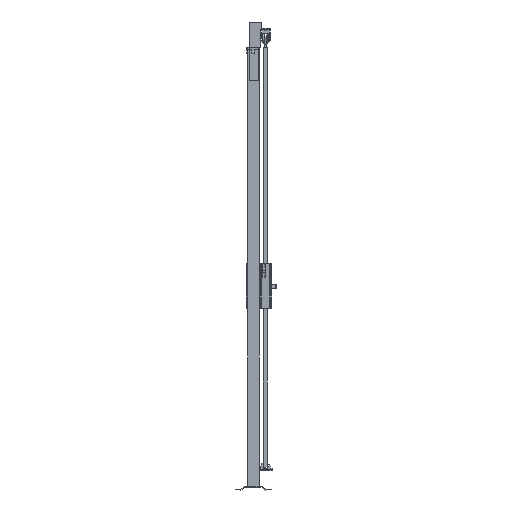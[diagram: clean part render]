
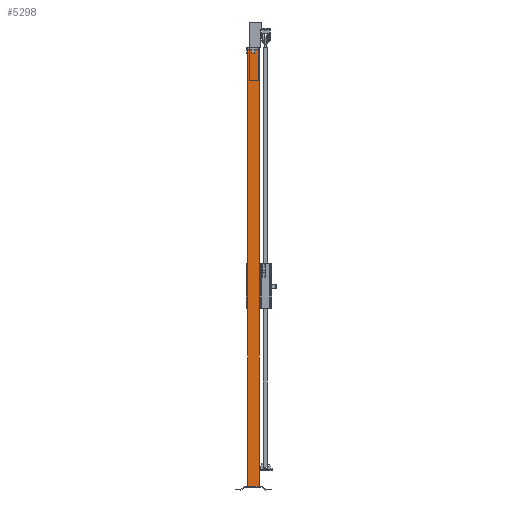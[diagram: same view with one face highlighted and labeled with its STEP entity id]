
A CAD part, left-side view. The second image highlights one B-rep face of the part: STEP entity #5298.
In plain terms, the highlighted planar face has unit normal (-1, 0, 0).
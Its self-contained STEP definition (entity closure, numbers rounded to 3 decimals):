
#497=FACE_OUTER_BOUND('',#878,.T.);
#878=EDGE_LOOP('',(#3342,#3343,#3344,#3345));
#1316=VERTEX_POINT('',#11287);
#1317=VERTEX_POINT('',#11289);
#1320=VERTEX_POINT('',#11296);
#1321=VERTEX_POINT('',#11298);
#2106=EDGE_CURVE('',#1316,#1317,#6216,.T.);
#2110=EDGE_CURVE('',#1320,#1321,#6220,.T.);
#2112=EDGE_CURVE('',#1317,#1320,#6222,.T.);
#2114=EDGE_CURVE('',#1316,#1321,#6224,.T.);
#3342=ORIENTED_EDGE('',*,*,#2114,.T.);
#3343=ORIENTED_EDGE('',*,*,#2110,.F.);
#3344=ORIENTED_EDGE('',*,*,#2112,.F.);
#3345=ORIENTED_EDGE('',*,*,#2106,.F.);
#4956=PLANE('',#8019);
#5298=ADVANCED_FACE('',(#497),#4956,.F.);
#6216=LINE('',#11290,#7207);
#6220=LINE('',#11299,#7211);
#6222=LINE('',#11302,#7213);
#6224=LINE('',#11305,#7215);
#7207=VECTOR('',#8946,1.);
#7211=VECTOR('',#8952,1.);
#7213=VECTOR('',#8956,1.);
#7215=VECTOR('',#8960,1.);
#8019=AXIS2_PLACEMENT_3D('',#11304,#8958,#8959);
#8946=DIRECTION('',(0.,-1.,0.));
#8952=DIRECTION('',(0.,1.,0.));
#8956=DIRECTION('',(0.,0.,-1.));
#8958=DIRECTION('center_axis',(1.,0.,0.));
#8959=DIRECTION('ref_axis',(0.,0.,-1.));
#8960=DIRECTION('',(0.,0.,-1.));
#11287=CARTESIAN_POINT('',(-30.,30.,2320.));
#11289=CARTESIAN_POINT('',(-30.,-30.,2320.));
#11290=CARTESIAN_POINT('',(-30.,0.,2320.));
#11296=CARTESIAN_POINT('',(-30.,-30.,20.));
#11298=CARTESIAN_POINT('',(-30.,30.,20.));
#11299=CARTESIAN_POINT('',(-30.,0.,20.));
#11302=CARTESIAN_POINT('',(-30.,-30.,1170.));
#11304=CARTESIAN_POINT('Origin',(-30.,0.,
1170.));
#11305=CARTESIAN_POINT('',(-30.,30.,1170.));
